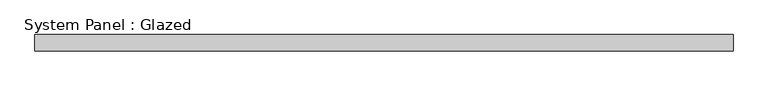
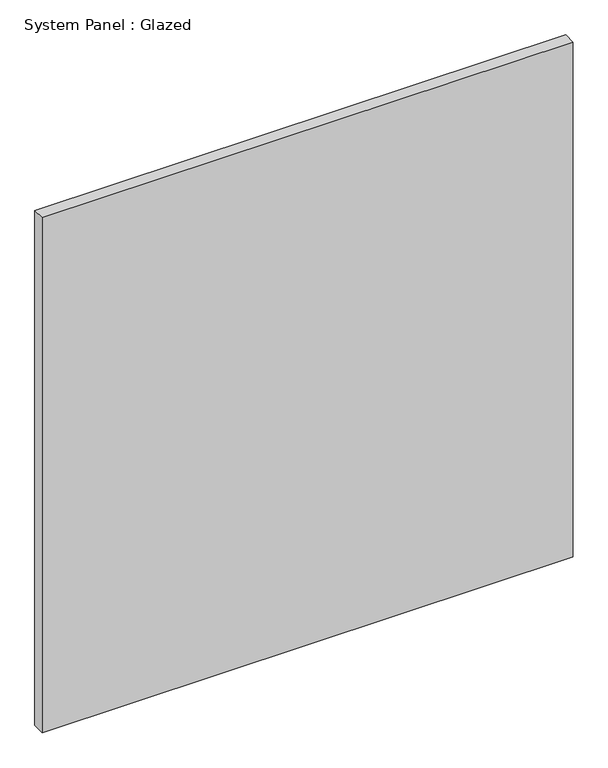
"""IFC4 building model written with IfcOpenShell, lengths in millimetres: plate geometry, System Panel : Glazed."""

from ifc_helpers import new_model, si_unit, origin, origin_with_axes, place, context, project, spatial, polyline, outline, extrude, source, transform, mapped, element, save


def system_panel_glazed_e4675ec4(model_context):
    return source(origin(), model_context, "Body", "SweptSolid", [
        extrude(outline(polyline([(541.9079183, 19.05), (-541.9079183, 19.05), (-541.9079183, 44.45), (541.9079183, 44.45), (541.9079183, 19.05)])), origin_with_axes(), (0.0, 0.0, 1.0), 1111.25),
    ])


if __name__ == "__main__":
    model = new_model("IFC4")
    model_context = context("Model", 3, world=origin())
    ifc_project = project(units=[si_unit("LENGTHUNIT", "METRE", prefix="MILLI")], contexts=[model_context])
    site = spatial("IfcSite", under=ifc_project)
    building = spatial("IfcBuilding", under=site)
    placement = place(None, origin())
    system_panel_glazed_shape = system_panel_glazed_e4675ec4(model_context)
    element("IfcPlate", 1, ObjectType="System Panel : Glazed", at=placement, inside=building, context=model_context, shape_type="MappedRepresentation", body=[
        mapped(system_panel_glazed_shape, transform((0.0, 0.0, 0.0), x_axis=(1.0, 0.0, 0.0), y_axis=(0.0, 1.0, 0.0), z_axis=(0.0, 0.0, 1.0))),
    ])
    save(model, "model.ifc")
